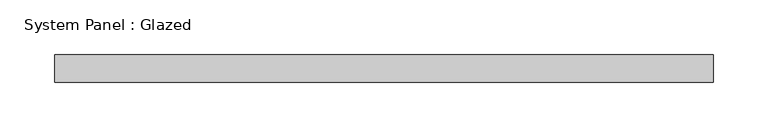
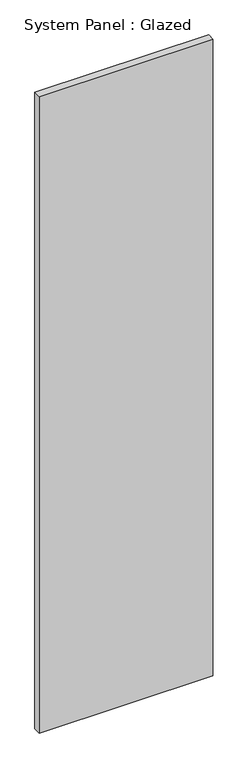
"""IFC4 building model written with IfcOpenShell, lengths in millimetres: plate geometry, System Panel : Glazed."""

from ifc_helpers import new_model, si_unit, origin, origin_with_axes, place, context, project, spatial, polyline, outline, extrude, source, transform, mapped, element, save


def system_panel_glazed_b6d9ad77(model_context):
    return source(origin(), model_context, "Body", "SweptSolid", [
        extrude(outline(polyline([(300.0, 24.5), (-300.0, 24.5), (-300.0, 49.5), (300.0, 49.5), (300.0, 24.5)])), origin_with_axes(), (0.0, 0.0, 1.0), 2325.0),
    ])


if __name__ == "__main__":
    model = new_model("IFC4")
    model_context = context("Model", 3, world=origin())
    ifc_project = project(units=[si_unit("LENGTHUNIT", "METRE", prefix="MILLI")], contexts=[model_context])
    site = spatial("IfcSite", under=ifc_project)
    building = spatial("IfcBuilding", under=site)
    placement = place(None, origin())
    system_panel_glazed_shape = system_panel_glazed_b6d9ad77(model_context)
    element("IfcPlate", 1, ObjectType="System Panel : Glazed", at=placement, inside=building, context=model_context, shape_type="MappedRepresentation", body=[
        mapped(system_panel_glazed_shape, transform((0.0, 0.0, 0.0), x_axis=(1.0, 0.0, 0.0), y_axis=(0.0, 1.0, 0.0), z_axis=(0.0, 0.0, 1.0))),
    ])
    save(model, "model.ifc")
